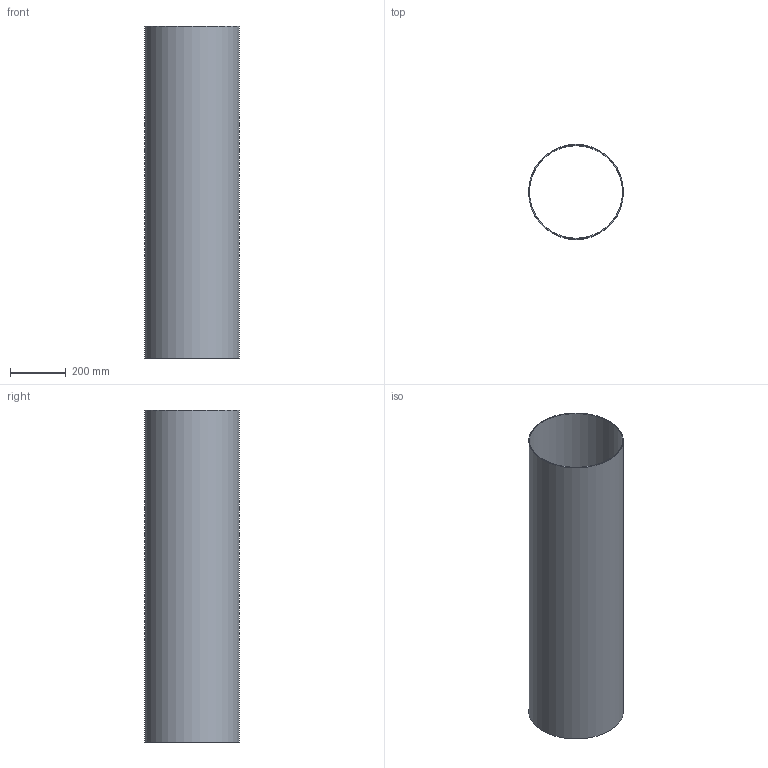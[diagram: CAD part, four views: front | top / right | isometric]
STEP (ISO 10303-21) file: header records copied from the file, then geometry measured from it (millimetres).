
FILE_DESCRIPTION(('Open CASCADE Model'),'2;1');
FILE_NAME('Open CASCADE Shape Model','2026-02-11T21:32:42',('Author'),( 'Open CASCADE'),'Open CASCADE STEP processor 7.8','Open CASCADE 7.8' ,'Unknown');
FILE_SCHEMA(('AUTOMOTIVE_DESIGN { 1 0 10303 214 1 1 1 1 }'));
Length unit declared in the file: millimetre
Products named in the file (1): Open CASCADE STEP translator 7.8 2
Bounding box: 340 x 340 x 1190 mm (x, y, z)
Volume: 3998019.3 mm3; surface area: 2525156.7 mm2
Topology: 1 solids, 1 shells, 4 faces, 6 edges, 4 vertices
Faces by surface type: cylinder 2, plane 2
Full cylindrical faces by diameter (mm): 333.65 x1, 340 x1
Entity records: 186 total; most frequent: DIRECTION 32, CARTESIAN_POINT 27, ORIENTED_EDGE 12, PCURVE 12, DEFINITIONAL_REPRESENTATION 12, LINE 10, VECTOR 10, AXIS2_PLACEMENT_3D 9
